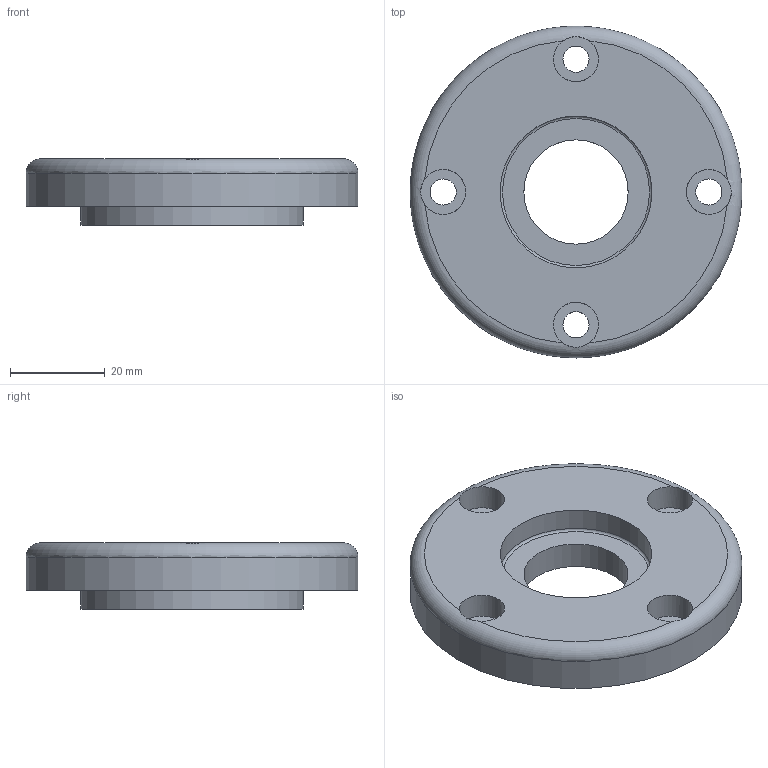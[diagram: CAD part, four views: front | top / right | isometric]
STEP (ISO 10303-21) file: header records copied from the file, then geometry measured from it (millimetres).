
FILE_DESCRIPTION(/* description */ (''),/* implementation_level */ '2;1');
FILE_NAME(/* name */ 'C:\Users\604\Desktop\새 폴더\600120E1005-커버.stp',/* time_stamp */ '2020-01-23T14:44:01+09:00',/* author */ ('604'),/* organization */ (''),/* preprocessor_version */ 'ST-DEVELOPER v16.13',/* originating_system */ 'Autodesk Inventor 2018',/* authorisation */ '');
FILE_SCHEMA (('AUTOMOTIVE_DESIGN { 1 0 10303 214 3 1 1 }'));
Length unit declared in the file: millimetre
Products named in the file (1): 1
Bounding box: 70 x 70 x 14 mm (x, y, z)
Volume: 33814.9 mm3; surface area: 11302.1 mm2
Topology: 1 solids, 1 shells, 24 faces, 59 edges, 40 vertices
Faces by surface type: cylinder 12, plane 9, torus 3
Full cylindrical faces by diameter (mm): 5.5 x4, 9.5 x4, 22 x1, 32 x1, 47 x1, 70 x1
Entity records: 669 total; most frequent: CARTESIAN_POINT 135, DIRECTION 112, ORIENTED_EDGE 70, AXIS2_PLACEMENT_3D 56, EDGE_LOOP 52, EDGE_CURVE 35, CIRCLE 31, VERTEX_POINT 31
